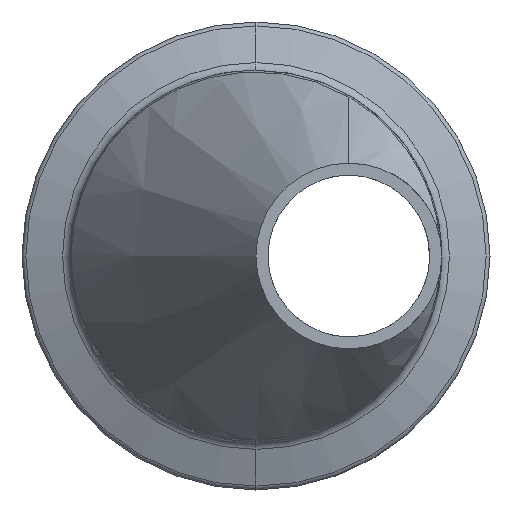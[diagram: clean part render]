
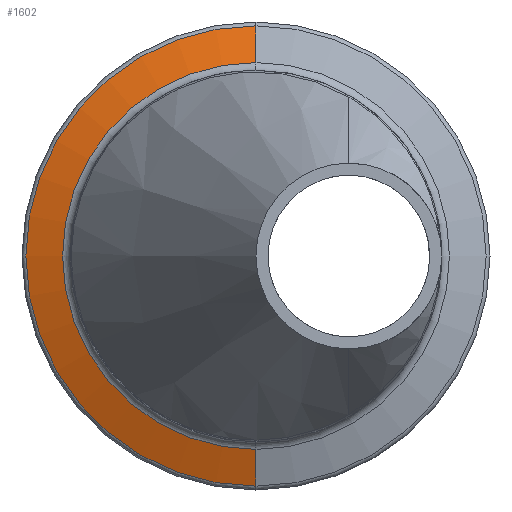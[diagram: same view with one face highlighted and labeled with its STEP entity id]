
A CAD part, left-side view. The second image highlights one B-rep face of the part: STEP entity #1602.
In plain terms, the highlighted conical face has half-angle 70 degrees and reference radius 26.453 mm.
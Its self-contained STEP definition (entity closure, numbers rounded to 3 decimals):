
#138 = DIRECTION ( 'NONE',  ( 0., 0., -1. ) ) ;
#142 = EDGE_LOOP ( 'NONE', ( #253, #1660, #974, #1064 ) ) ;
#147 = CARTESIAN_POINT ( 'NONE',  ( 44.344, 0., 0. ) ) ;
#164 = DIRECTION ( 'NONE',  ( 1., 0., 0. ) ) ;
#185 = VERTEX_POINT ( 'NONE', #966 ) ;
#233 = AXIS2_PLACEMENT_3D ( 'NONE', #147, #164, #138 ) ;
#235 = VECTOR ( 'NONE', #328, 1000. ) ;
#253 = ORIENTED_EDGE ( 'NONE', *, *, #673, .F. ) ;
#292 = CIRCLE ( 'NONE', #2192, 26.453 ) ;
#328 = DIRECTION ( 'NONE',  ( 0.342, 0., -0.94 ) ) ;
#384 = CARTESIAN_POINT ( 'NONE',  ( 44.344, 0., 26.453 ) ) ;
#413 = LINE ( 'NONE', #384, #2262 ) ;
#634 = FACE_OUTER_BOUND ( 'NONE', #142, .T. ) ;
#673 = EDGE_CURVE ( 'NONE', #792, #1369, #292, .T. ) ;
#792 = VERTEX_POINT ( 'NONE', #1968 ) ;
#835 = DIRECTION ( 'NONE',  ( 0.342, 0., 0.94 ) ) ;
#893 = CARTESIAN_POINT ( 'NONE',  ( 44.344, 0., -26.453 ) ) ;
#966 = CARTESIAN_POINT ( 'NONE',  ( 46.171, 0., -31.474 ) ) ;
#974 = ORIENTED_EDGE ( 'NONE', *, *, #1839, .T. ) ;
#1058 = CARTESIAN_POINT ( 'NONE',  ( 44.344, 0., -26.453 ) ) ;
#1064 = ORIENTED_EDGE ( 'NONE', *, *, #1995, .F. ) ;
#1075 = CONICAL_SURFACE ( 'NONE', #233, 26.453, 1.222 ) ;
#1150 = VERTEX_POINT ( 'NONE', #1276 ) ;
#1204 = LINE ( 'NONE', #893, #235 ) ;
#1276 = CARTESIAN_POINT ( 'NONE',  ( 46.171, 0., 31.474 ) ) ;
#1294 = EDGE_CURVE ( 'NONE', #792, #1150, #413, .T. ) ;
#1323 = CIRCLE ( 'NONE', #1454, 31.474 ) ;
#1369 = VERTEX_POINT ( 'NONE', #1058 ) ;
#1454 = AXIS2_PLACEMENT_3D ( 'NONE', #2056, #2106, #2127 ) ;
#1602 = ADVANCED_FACE ( 'NONE', ( #634 ), #1075, .T. ) ;
#1660 = ORIENTED_EDGE ( 'NONE', *, *, #1294, .T. ) ;
#1775 = CARTESIAN_POINT ( 'NONE',  ( 44.344, 0., 0. ) ) ;
#1786 = DIRECTION ( 'NONE',  ( -1., 0., 0. ) ) ;
#1792 = DIRECTION ( 'NONE',  ( 0., 0., 1. ) ) ;
#1839 = EDGE_CURVE ( 'NONE', #1150, #185, #1323, .T. ) ;
#1968 = CARTESIAN_POINT ( 'NONE',  ( 44.344, 0., 26.453 ) ) ;
#1995 = EDGE_CURVE ( 'NONE', #1369, #185, #1204, .T. ) ;
#2056 = CARTESIAN_POINT ( 'NONE',  ( 46.171, 0., 0. ) ) ;
#2106 = DIRECTION ( 'NONE',  ( -1., 0., 0. ) ) ;
#2127 = DIRECTION ( 'NONE',  ( 0., 0., 1. ) ) ;
#2192 = AXIS2_PLACEMENT_3D ( 'NONE', #1775, #1786, #1792 ) ;
#2262 = VECTOR ( 'NONE', #835, 1000. ) ;
